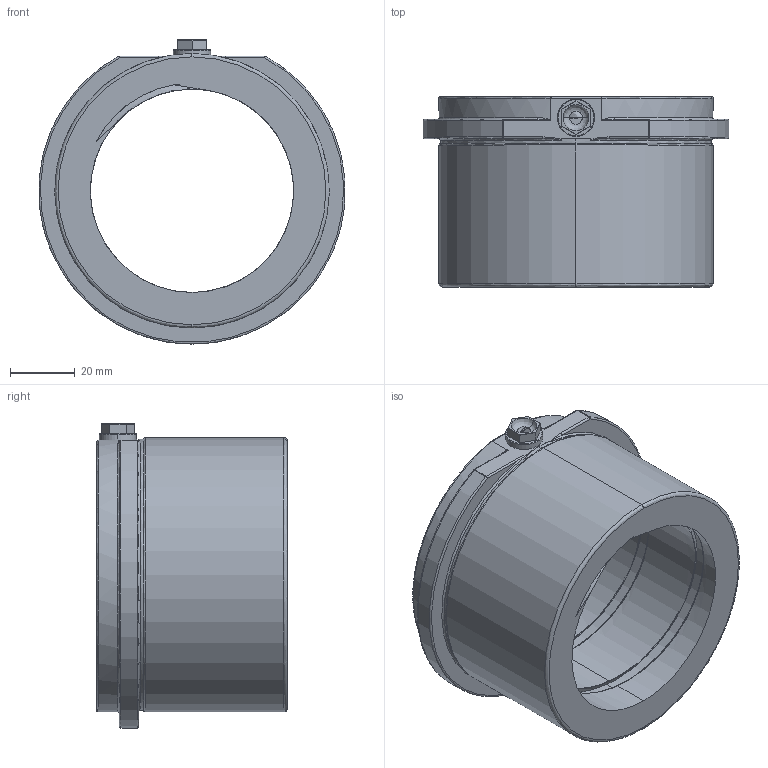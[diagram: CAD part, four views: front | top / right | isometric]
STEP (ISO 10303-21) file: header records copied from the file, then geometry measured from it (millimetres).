
FILE_DESCRIPTION( ( 'STEP AP203' ), '1' );
FILE_NAME( 'D:/Delta 3 D/D24/D24 - 63x46K.step', '2002-12-31T22:45:22', ( ' ' ), ( ' ' ), 'XStep 1.0', ' ', ' ' );
FILE_SCHEMA( ( 'CONFIG_CONTROL_DESIGN' ) );
Length unit declared in the file: metre
Products named in the file (1): 1
Bounding box: 94.8 x 59 x 94.25 mm (x, y, z)
Volume: 154711.7 mm3; surface area: 37670 mm2
Topology: 1 solids, 1 shells, 86 faces, 205 edges, 121 vertices
Faces by surface type: revolution 43, bspline 43
Entity records: 6976 total; most frequent: CARTESIAN_POINT 5271, ORIENTED_EDGE 404, DIRECTION 224, EDGE_CURVE 202, VERTEX_POINT 121, EDGE_LOOP 91, B_SPLINE_CURVE_WITH_KNOTS 89, ADVANCED_FACE 86
